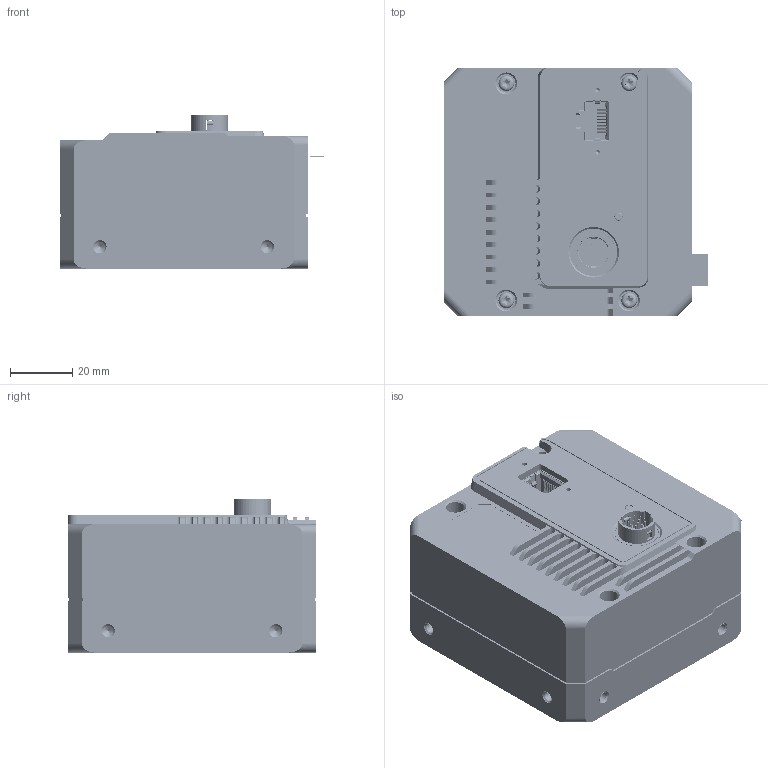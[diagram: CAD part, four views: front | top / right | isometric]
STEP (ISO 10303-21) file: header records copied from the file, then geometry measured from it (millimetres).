
FILE_DESCRIPTION((''),'2;1');
FILE_NAME('00-ALL-ASM_ASM','2020-03-07T16:21:18',('liudeting'),(''),'CREO PARAMETRIC BY PTC INC, 2017260','CREO PARAMETRIC BY PTC INC, 2017260','');
FILE_SCHEMA(('CONFIG_CONTROL_DESIGN'));
Products named in the file (32): DE-14-003952; GLASS; DE-14-003953; SC-PM3X17T10L5-BNI-SUS; DAOREDIAN_SENSOR; DE-17-000380; CASE-ALL_ASM; PCB_SENSOR; DE-14-004252; CGCX_8K_LINE_CMOS_SENSOR; 101302398; MV-21138REV10-021211-2020021211; SC-PSFM2X6-NI-GB9074_8; PCB_SENSOR_ASM; MAIN-PCB; 101302399; HR10A-10R-12PB; D-01-35-26-0096; 23055-8K-01; 101300106; MV-20126REV10PM4-202002101807_A; MAIN-PCB-ASM_ASM; ST-S46-M24-F24-B000; SC-T1M2X4NL; DE-11-005241; SC-KM2X4-NI-GB819; PCB-ASM_ASM; D-01-37-26-0200; SC-PM2X6B-JMP; DAOREDIAN-28X28; DAOREDIAN_SENSOR-SOLO; 00-ALL-ASM_ASM
Assembly tree (48 placements, depth 4):
  00-ALL-ASM_ASM
    CASE-ALL_ASM
      DE-14-003952
      GLASS
      DE-14-003953
      SC-PM3X17T10L5-BNI-SUS  x4
      DAOREDIAN_SENSOR
      DE-17-000380
    PCB-ASM_ASM
      PCB_SENSOR_ASM
        PCB_SENSOR
        DE-14-004252
        CGCX_8K_LINE_CMOS_SENSOR
        101302398  x2
        MV-21138REV10-021211-2020021211
        SC-PSFM2X6-NI-GB9074_8  x4
      MAIN-PCB-ASM_ASM
        MAIN-PCB
        101302399  x2
        HR10A-10R-12PB
        D-01-35-26-0096
        23055-8K-01
        101300106
        MV-20126REV10PM4-202002101807_A
      ST-S46-M24-F24-B000  x4
      SC-T1M2X4NL  x4
      DE-11-005241
      SC-KM2X4-NI-GB819  x2
    D-01-37-26-0200
    SC-PM2X6B-JMP  x3
    DAOREDIAN-28X28
    DAOREDIAN_SENSOR-SOLO
Bounding box: 85.39 x 80 x 49.35 mm (x, y, z)
Volume: 193406.6 mm3; surface area: 156103.4 mm2
Topology: 55 solids, 170 shells, 22214 faces, 58597 edges, 38211 vertices
Faces by surface type: plane 17536, cylinder 3995, cone 405, torus 120, sphere 73, bspline 55, extrusion 30
Entity records: 615079 total; most frequent: CARTESIAN_POINT 114869, ORIENTED_EDGE 104024, DIRECTION 98364, EDGE_CURVE 52458, VECTOR 43378, LINE 43366, VERTEX_POINT 34271, AXIS2_PLACEMENT_3D 27493
